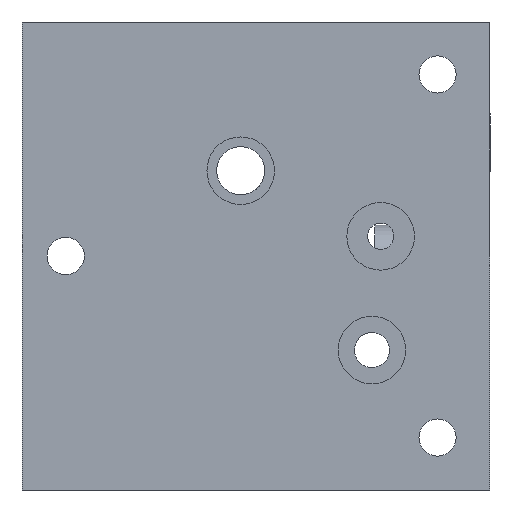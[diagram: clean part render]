
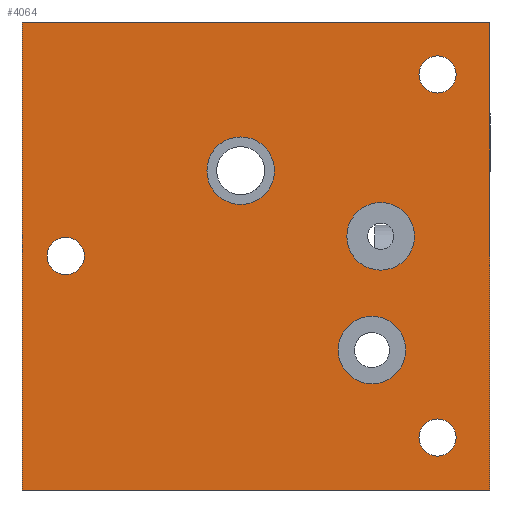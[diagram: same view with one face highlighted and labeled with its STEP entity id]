
A CAD part, left-side view. The second image highlights one B-rep face of the part: STEP entity #4064.
In plain terms, the highlighted planar face has unit normal (-1, 0, 0).
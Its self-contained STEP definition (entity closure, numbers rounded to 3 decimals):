
#24=DIRECTION('',(0.,0.,-1.));
#25=VECTOR('',#24,107.);
#26=CARTESIAN_POINT('',(0.,0.,0.));
#27=LINE('',#26,#25);
#32=DIRECTION('',(0.,1.,0.));
#33=VECTOR('',#32,107.);
#34=CARTESIAN_POINT('',(0.,0.,-107.));
#35=LINE('',#34,#33);
#39=DIRECTION('',(0.,0.,1.));
#40=VECTOR('',#39,107.);
#41=CARTESIAN_POINT('',(0.,107.,-107.));
#42=LINE('',#41,#40);
#46=DIRECTION('',(0.,-1.,0.));
#47=VECTOR('',#46,107.);
#48=CARTESIAN_POINT('',(0.,107.,0.));
#49=LINE('',#48,#47);
#53=CARTESIAN_POINT('',(0.,12.,-12.));
#54=DIRECTION('',(1.,0.,0.));
#55=DIRECTION('',(0.,1.,0.));
#56=AXIS2_PLACEMENT_3D('',#53,#54,#55);
#61=CARTESIAN_POINT('',(0.,12.,-12.));
#62=DIRECTION('',(1.,0.,0.));
#63=DIRECTION('',(0.,-1.,0.));
#64=AXIS2_PLACEMENT_3D('',#61,#62,#63);
#69=CARTESIAN_POINT('',(0.,12.,-95.));
#70=DIRECTION('',(1.,0.,0.));
#71=DIRECTION('',(0.,1.,0.));
#72=AXIS2_PLACEMENT_3D('',#69,#70,#71);
#77=CARTESIAN_POINT('',(0.,12.,-95.));
#78=DIRECTION('',(1.,0.,0.));
#79=DIRECTION('',(0.,-1.,0.));
#80=AXIS2_PLACEMENT_3D('',#77,#78,#79);
#85=CARTESIAN_POINT('',(0.,97.,-53.5));
#86=DIRECTION('',(1.,0.,0.));
#87=DIRECTION('',(0.,1.,0.));
#88=AXIS2_PLACEMENT_3D('',#85,#86,#87);
#93=CARTESIAN_POINT('',(0.,97.,-53.5));
#94=DIRECTION('',(1.,0.,0.));
#95=DIRECTION('',(0.,-1.,0.));
#96=AXIS2_PLACEMENT_3D('',#93,#94,#95);
#101=CARTESIAN_POINT('',(0.,27.,-75.));
#102=DIRECTION('',(1.,0.,0.));
#103=DIRECTION('',(0.,1.,0.));
#104=AXIS2_PLACEMENT_3D('',#101,#102,#103);
#109=CARTESIAN_POINT('',(0.,27.,-75.));
#110=DIRECTION('',(1.,0.,0.));
#111=DIRECTION('',(0.,-1.,0.));
#112=AXIS2_PLACEMENT_3D('',#109,#110,#111);
#117=CARTESIAN_POINT('',(0.,57.,-34.));
#118=DIRECTION('',(1.,0.,0.));
#119=DIRECTION('',(0.,1.,0.));
#120=AXIS2_PLACEMENT_3D('',#117,#118,#119);
#125=CARTESIAN_POINT('',(0.,57.,-34.));
#126=DIRECTION('',(1.,0.,0.));
#127=DIRECTION('',(0.,-1.,0.));
#128=AXIS2_PLACEMENT_3D('',#125,#126,#127);
#133=CARTESIAN_POINT('',(0.,25.,-49.));
#134=DIRECTION('',(1.,0.,0.));
#135=DIRECTION('',(0.,1.,0.));
#136=AXIS2_PLACEMENT_3D('',#133,#134,#135);
#141=CARTESIAN_POINT('',(0.,25.,-49.));
#142=DIRECTION('',(1.,0.,0.));
#143=DIRECTION('',(0.,-1.,0.));
#144=AXIS2_PLACEMENT_3D('',#141,#142,#143);
#3655=CARTESIAN_POINT('',(0.,0.,0.));
#3656=CARTESIAN_POINT('',(0.,0.,-107.));
#3657=VERTEX_POINT('',#3655);
#3658=VERTEX_POINT('',#3656);
#3659=CARTESIAN_POINT('',(0.,107.,-107.));
#3660=VERTEX_POINT('',#3659);
#3661=CARTESIAN_POINT('',(0.,107.,0.));
#3662=VERTEX_POINT('',#3661);
#3671=CARTESIAN_POINT('',(0.,16.25,-12.));
#3672=CARTESIAN_POINT('',(0.,7.75,-12.));
#3673=VERTEX_POINT('',#3671);
#3674=VERTEX_POINT('',#3672);
#3679=CARTESIAN_POINT('',(0.,16.25,-95.));
#3680=CARTESIAN_POINT('',(0.,7.75,-95.));
#3681=VERTEX_POINT('',#3679);
#3682=VERTEX_POINT('',#3680);
#3687=CARTESIAN_POINT('',(0.,101.25,-53.5));
#3688=CARTESIAN_POINT('',(0.,92.75,-53.5));
#3689=VERTEX_POINT('',#3687);
#3690=VERTEX_POINT('',#3688);
#3711=CARTESIAN_POINT('',(0.,34.725,-75.));
#3712=CARTESIAN_POINT('',(0.,19.275,-75.));
#3713=VERTEX_POINT('',#3711);
#3714=VERTEX_POINT('',#3712);
#3723=CARTESIAN_POINT('',(0.,64.725,-34.));
#3724=VERTEX_POINT('',#3723);
#3725=CARTESIAN_POINT('',(0.,49.275,-34.));
#3726=VERTEX_POINT('',#3725);
#3735=CARTESIAN_POINT('',(0.,32.725,-49.));
#3736=VERTEX_POINT('',#3735);
#3737=CARTESIAN_POINT('',(0.,17.275,-49.));
#3738=VERTEX_POINT('',#3737);
#4013=CARTESIAN_POINT('',(0.,0.,0.));
#4014=DIRECTION('',(1.,0.,0.));
#4015=DIRECTION('',(0.,0.,-1.));
#4016=AXIS2_PLACEMENT_3D('',#4013,#4014,#4015);
#4017=PLANE('',#4016);
#4019=ORIENTED_EDGE('',*,*,#4018,.T.);
#4021=ORIENTED_EDGE('',*,*,#4020,.T.);
#4023=ORIENTED_EDGE('',*,*,#4022,.T.);
#4025=ORIENTED_EDGE('',*,*,#4024,.T.);
#4026=EDGE_LOOP('',(#4019,#4021,#4023,#4025));
#4027=FACE_OUTER_BOUND('',#4026,.F.);
#4029=ORIENTED_EDGE('',*,*,#4028,.F.);
#4031=ORIENTED_EDGE('',*,*,#4030,.F.);
#4032=EDGE_LOOP('',(#4029,#4031));
#4033=FACE_BOUND('',#4032,.F.);
#4035=ORIENTED_EDGE('',*,*,#4034,.F.);
#4037=ORIENTED_EDGE('',*,*,#4036,.F.);
#4038=EDGE_LOOP('',(#4035,#4037));
#4039=FACE_BOUND('',#4038,.F.);
#4041=ORIENTED_EDGE('',*,*,#4040,.F.);
#4043=ORIENTED_EDGE('',*,*,#4042,.F.);
#4044=EDGE_LOOP('',(#4041,#4043));
#4045=FACE_BOUND('',#4044,.F.);
#4047=ORIENTED_EDGE('',*,*,#4046,.F.);
#4049=ORIENTED_EDGE('',*,*,#4048,.F.);
#4050=EDGE_LOOP('',(#4047,#4049));
#4051=FACE_BOUND('',#4050,.F.);
#4053=ORIENTED_EDGE('',*,*,#4052,.F.);
#4055=ORIENTED_EDGE('',*,*,#4054,.F.);
#4056=EDGE_LOOP('',(#4053,#4055));
#4057=FACE_BOUND('',#4056,.F.);
#4059=ORIENTED_EDGE('',*,*,#4058,.F.);
#4061=ORIENTED_EDGE('',*,*,#4060,.F.);
#4062=EDGE_LOOP('',(#4059,#4061));
#4063=FACE_BOUND('',#4062,.F.);
#57=CIRCLE('',#56,4.25);
#65=CIRCLE('',#64,4.25);
#73=CIRCLE('',#72,4.25);
#81=CIRCLE('',#80,4.25);
#89=CIRCLE('',#88,4.25);
#97=CIRCLE('',#96,4.25);
#105=CIRCLE('',#104,7.725);
#113=CIRCLE('',#112,7.725);
#121=CIRCLE('',#120,7.725);
#129=CIRCLE('',#128,7.725);
#137=CIRCLE('',#136,7.725);
#145=CIRCLE('',#144,7.725);
#4018=EDGE_CURVE('',#3657,#3658,#27,.T.);
#4020=EDGE_CURVE('',#3658,#3660,#35,.T.);
#4022=EDGE_CURVE('',#3660,#3662,#42,.T.);
#4024=EDGE_CURVE('',#3662,#3657,#49,.T.);
#4028=EDGE_CURVE('',#3673,#3674,#57,.T.);
#4030=EDGE_CURVE('',#3674,#3673,#65,.T.);
#4034=EDGE_CURVE('',#3681,#3682,#73,.T.);
#4036=EDGE_CURVE('',#3682,#3681,#81,.T.);
#4040=EDGE_CURVE('',#3689,#3690,#89,.T.);
#4042=EDGE_CURVE('',#3690,#3689,#97,.T.);
#4046=EDGE_CURVE('',#3713,#3714,#105,.T.);
#4048=EDGE_CURVE('',#3714,#3713,#113,.T.);
#4052=EDGE_CURVE('',#3724,#3726,#121,.T.);
#4054=EDGE_CURVE('',#3726,#3724,#129,.T.);
#4058=EDGE_CURVE('',#3736,#3738,#137,.T.);
#4060=EDGE_CURVE('',#3738,#3736,#145,.T.);
#4064=ADVANCED_FACE('',(#4027,#4033,#4039,#4045,#4051,#4057,#4063),#4017,.F.);
